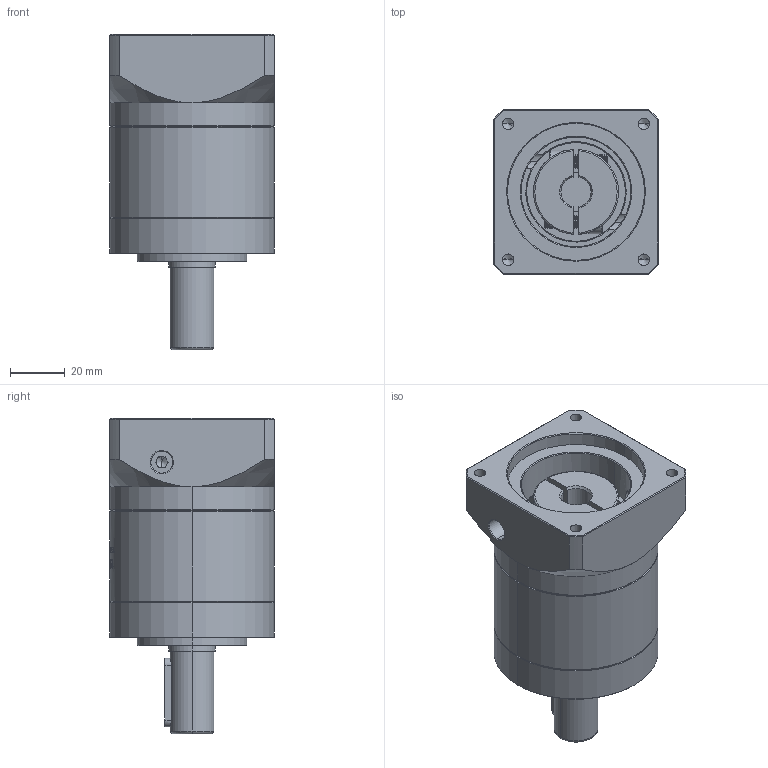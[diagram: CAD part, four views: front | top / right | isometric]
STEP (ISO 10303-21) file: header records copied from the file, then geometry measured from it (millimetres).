
FILE_DESCRIPTION (( 'STEP AP214' ), '1' );
FILE_NAME ('ZE60-D16-L1-11-50-70-M5.STEP', '2022-04-17T15:19:28', ( '' ), ( 'Microsoft' ), 'SwSTEP 2.0', 'SolidWorks 2016', '' );
FILE_SCHEMA (( 'AUTOMOTIVE_DESIGN' ));
Length unit declared in the file: millimetre
Products named in the file (1): ZE60-D16-L1-11-50-70-M5
Bounding box: 60 x 60 x 115 mm (x, y, z)
Volume: 214615.7 mm3; surface area: 42698.6 mm2
Topology: 6 solids, 6 shells, 1598 faces, 4328 edges, 2802 vertices
Faces by surface type: plane 724, cylinder 335, bspline 299, cone 222, torus 18
Entity records: 90508 total; most frequent: CARTESIAN_POINT 36421, ORIENTED_EDGE 8612, DIRECTION 6297, EDGE_CURVE 4306, VERTEX_POINT 2802, LINE 2203, VECTOR 2203, AXIS2_PLACEMENT_3D 2047
